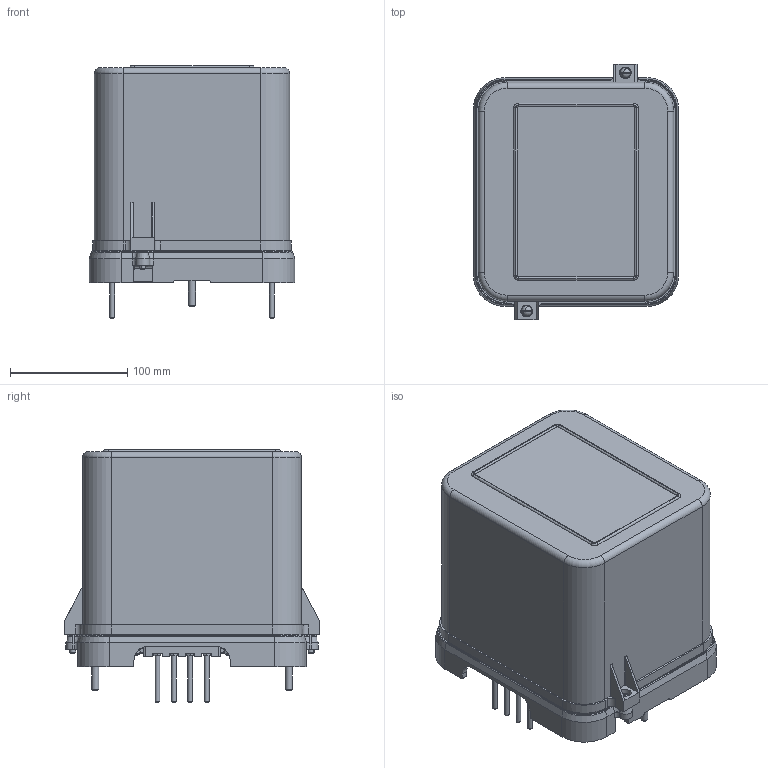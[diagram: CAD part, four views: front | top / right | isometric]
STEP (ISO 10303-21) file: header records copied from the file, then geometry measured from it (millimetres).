
FILE_DESCRIPTION(('STEP AP214'), '1');
FILE_NAME('ÄÇÒ-11 ç.ï.', '', ('UNSPECIFIED'), ('UNSPECIFIED'), 'ASCON STEP Converter 1.3', 'ASCON Math Kernel', '');
FILE_SCHEMA(('AUTOMOTIVE_DESIGN { 1 0 10303 214 3 1 1}'));
Length unit declared in the file: millimetre
Bounding box: 175 x 218 x 215 mm (x, y, z)
Volume: 618240 mm3; surface area: 450266.2 mm2
Topology: 2 solids, 3 shells, 2301 faces, 5573 edges, 3612 vertices
Faces by surface type: plane 1277, cylinder 767, torus 87, bspline 84, cone 76, sphere 10
Full cylindrical faces by diameter (mm): 3.242 x13, 4 x19, 4.1 x12, 4.3 x2, 4.5 x15, 5 x3, 5.5 x5, 6 x2, 7 x12, 8 x14, 8.5 x2, 10 x4
Entity records: 98544 total; most frequent: CARTESIAN_POINT 26324, DIRECTION 11113, ORIENTED_EDGE 10808, EDGE_CURVE 5404, AXIS2_PLACEMENT_3D 3956, VERTEX_POINT 3612, LINE 3201, VECTOR 3201
